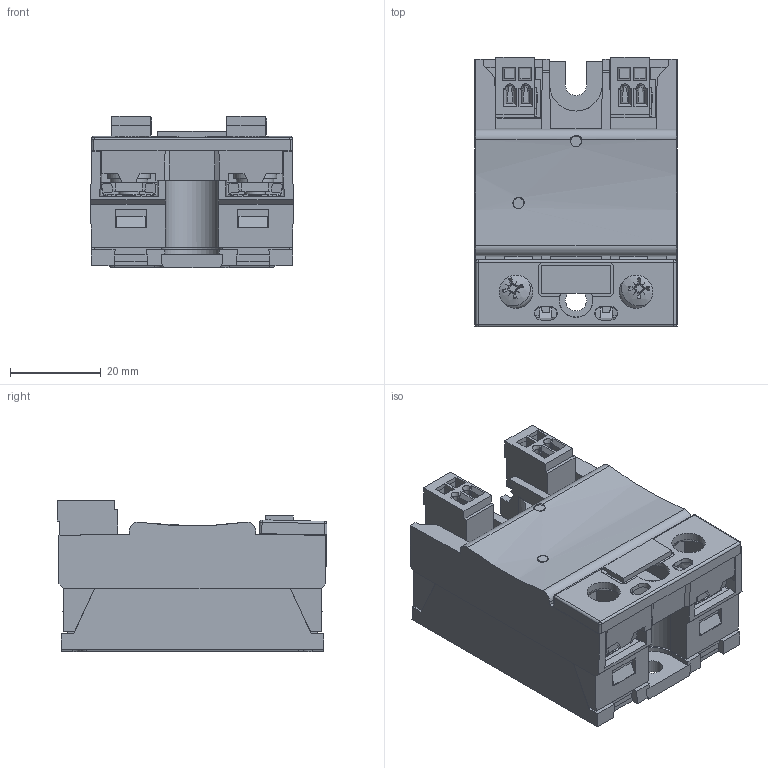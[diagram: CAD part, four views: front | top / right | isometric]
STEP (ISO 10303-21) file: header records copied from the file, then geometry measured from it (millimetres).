
FILE_DESCRIPTION((''),'2;1');
FILE_NAME('R:\Stock\3D pour clients\CELDUC references\2D3D 595 A.stp','2012-07-04T07:34:05',('Georges THOLLOT ','Tl : +33 (0)4 77 53 90 27','gthollot@celduc.com'),('Celduc r e l a i s','5, rue Ampre, BP 30004','42290 SORBIERS - France','Fax. : +33 (0)4 77 53 85 51','N siret 353 310 519 00015','ISO 9001 N QUAL/1993/1106b','www.celduc.com'),'Autodesk Inventor 2010','Autodesk Inventor 2010','');
FILE_SCHEMA(('CONFIG_CONTROL_DESIGN'));
Length unit declared in the file: millimetre
Products named in the file (3): SOD; WAGO 734 102
Assembly tree (3 placements, depth 2):
  SOD
    SOD
    WAGO 734 102  x2
Bounding box: 44.8 x 59.6 x 33.5 mm (x, y, z)
Volume: 61261.7 mm3; surface area: 21219.5 mm2
Topology: 3 solids, 5 shells, 1107 faces, 2973 edges, 1913 vertices
Faces by surface type: plane 828, cone 127, bspline 69, cylinder 67, torus 10, sphere 6
Full cylindrical faces by diameter (mm): 1.5 x4, 2.35 x1, 4.567 x2, 4.7 x1
Entity records: 33371 total; most frequent: CARTESIAN_POINT 8247, ORIENTED_EDGE 5306, DIRECTION 4569, EDGE_CURVE 2653, VECTOR 2069, LINE 2069, VERTEX_POINT 1736, AXIS2_PLACEMENT_3D 1250
